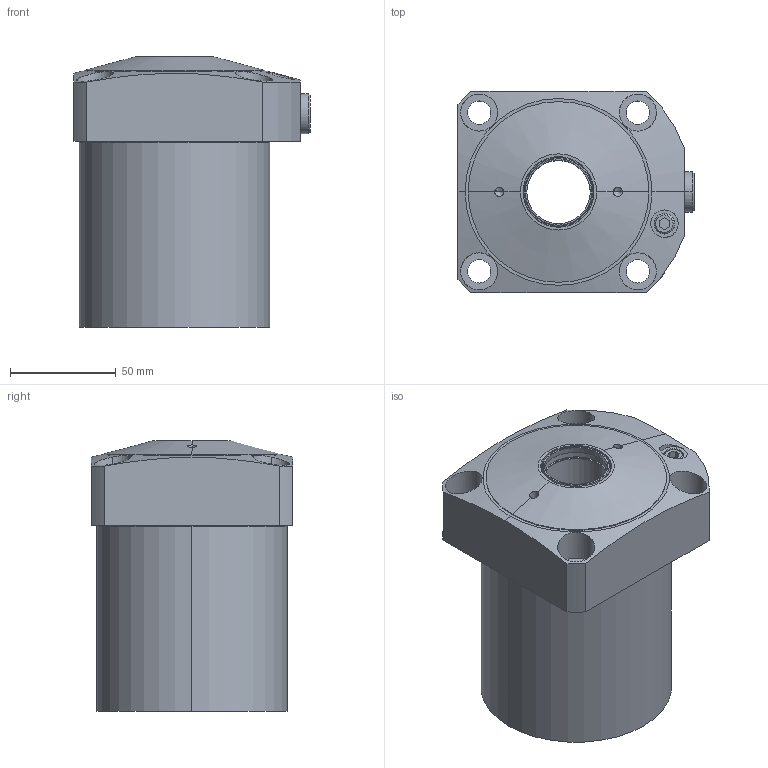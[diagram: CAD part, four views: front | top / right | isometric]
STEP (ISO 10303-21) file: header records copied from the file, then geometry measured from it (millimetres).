
FILE_DESCRIPTION(/* description */ (''),/* implementation_level */ '2;1');
FILE_NAME(/* name */ 'KFSS90-C.stp',/* time_stamp */ '2022-11-17T07:57:44+08:00',/* author */ (''),/* organization */ (''),/* preprocessor_version */ 'ST-DEVELOPER v16.7',/* originating_system */ 'SIEMENS PLM Software NX 12.0',/* authorisation */ '');
FILE_SCHEMA (('AP203_CONFIGURATION_CONTROLLED_3D_DESIGN_OF_MECHANICAL_PARTS_AND_ASSEMBLIES_MIM_LF { 1 0 10303 403 2 1 2}'));
Length unit declared in the file: millimetre
Products named in the file (4): KFSS90-C-01; KFSS90-C-02; KFSS90-C-03; LC0902-Cx-D_step
Assembly tree (3 placements, depth 2):
  LC0902-Cx-D_step
    KFSS90-C-03
    KFSS90-C-02
    KFSS90-C-01
Bounding box: 111.5 x 95 x 128 mm (x, y, z)
Volume: 783842.3 mm3; surface area: 74088.6 mm2
Topology: 3 solids, 3 shells, 131 faces, 288 edges, 178 vertices
Faces by surface type: cylinder 52, plane 41, cone 32, torus 6
Entity records: 4235 total; most frequent: CARTESIAN_POINT 829, DIRECTION 668, ORIENTED_EDGE 568, EDGE_CURVE 284, AXIS2_PLACEMENT_3D 269, VERTEX_POINT 178, EDGE_LOOP 160, CIRCLE 134
